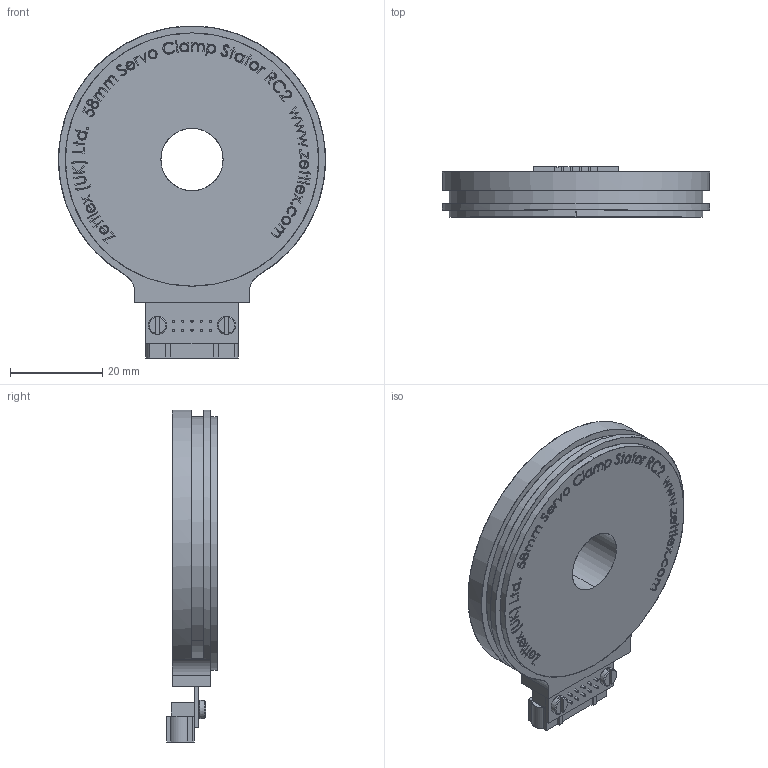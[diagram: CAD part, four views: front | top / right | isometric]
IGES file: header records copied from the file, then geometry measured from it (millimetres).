
Start section: SolidWorks IGES file using analytic representation for surfaces
Global section: file name: C:\Zettlex Data\Mechanical Drawings\1615\58mm Servo Clamp Stator RC2 Rev 1-0.IGS; native system: SolidWorks 2015; preprocessor: SolidWorks 2015; author: Nigel; date: 150908.085849; units: millimetre
Bounding box: 58 x 11.03 x 72.1 mm (x, y, z)
Surface area: 9804.6 mm2 (no closed solid volume)
Topology: 0 solids, 0 shells, 1337 faces, 14297 edges, 14293 vertices
Faces by surface type: bspline 1033, revolution 304
